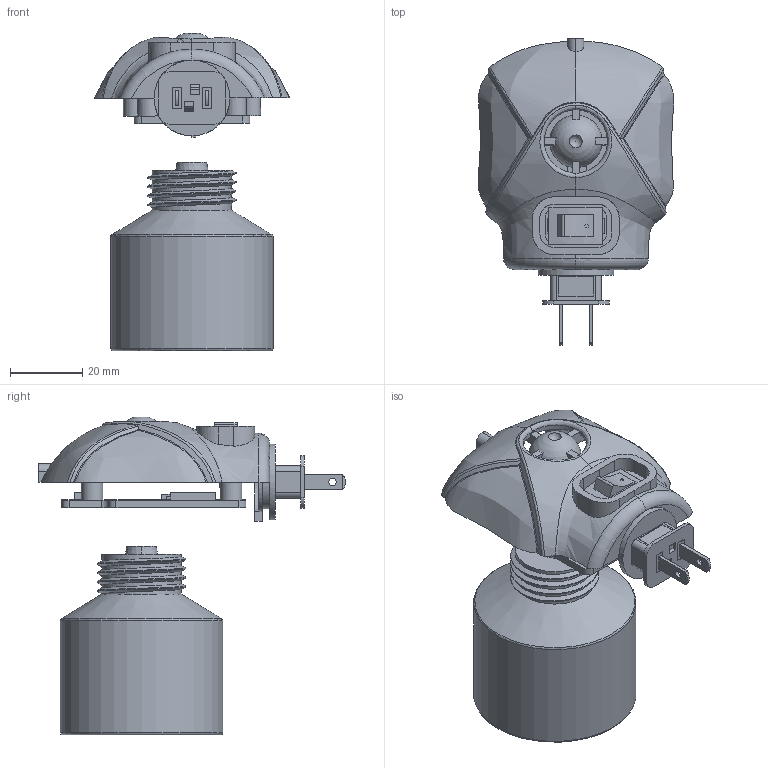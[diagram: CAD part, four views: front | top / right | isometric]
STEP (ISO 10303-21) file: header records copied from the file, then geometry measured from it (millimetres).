
FILE_DESCRIPTION(/* description */ (''),/* implementation_level */ '2;1');
FILE_NAME(/* name */ '样题2 节能小夜灯插电图纸.stp',/* time_stamp */ '2023-04-15T15:10:00+08:00',/* author */ (''),/* organization */ (''),/* preprocessor_version */ 'ST-DEVELOPER v16.7',/* originating_system */ 'SIEMENS PLM Software NX 12.0',/* authorisation */ '');
FILE_SCHEMA (('AUTOMOTIVE_DESIGN { 1 0 10303 214 3 1 1 1 }'));
Length unit declared in the file: millimetre
Products named in the file (1): 样题2 节能小夜灯插电图纸
Bounding box: 54.16 x 84.99 x 88.03 mm (x, y, z)
Volume: 11993.1 mm3; surface area: 36099.9 mm2
Topology: 8 solids, 10 shells, 1266 faces, 3479 edges, 2283 vertices
Faces by surface type: plane 756, cylinder 322, extrusion 70, bspline 66, torus 25, sphere 19, cone 8
Full cylindrical faces by diameter (mm): 0.359 x1, 0.4 x4, 0.5 x1, 0.575 x1, 0.6 x2, 0.732 x1, 0.771 x1, 1 x1, 1.05 x2, 2 x1, 2.1 x2, 2.6 x1, 2.8 x1, 3 x4, 3.5 x1, 3.8 x1, 4 x4, 6 x4, 13.387 x1, 14.825 x1, 20 x1, 21 x1, 44 x1, 45 x1
Entity records: 60536 total; most frequent: CARTESIAN_POINT 25624, ORIENTED_EDGE 6758, DIRECTION 5475, EDGE_CURVE 3379, VERTEX_POINT 2253, VECTOR 2081, LINE 2011, AXIS2_PLACEMENT_3D 1697
